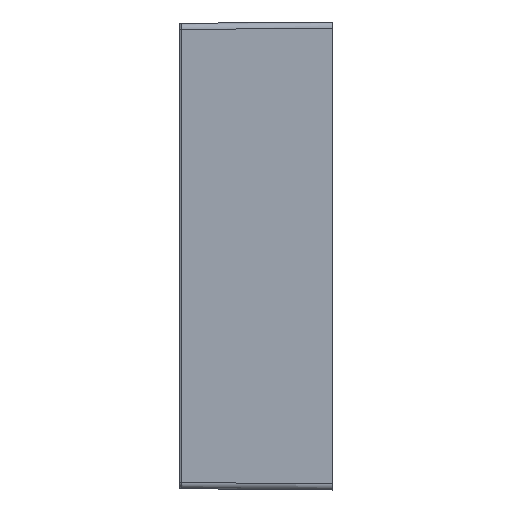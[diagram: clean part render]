
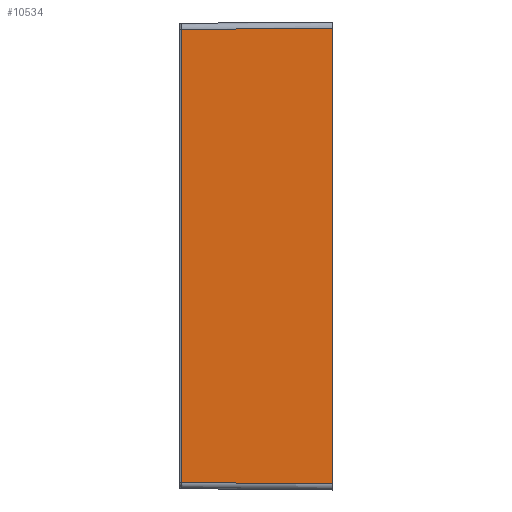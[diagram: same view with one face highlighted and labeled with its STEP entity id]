
A CAD part, left-side view. The second image highlights one B-rep face of the part: STEP entity #10534.
In plain terms, the highlighted planar face has unit normal (-1, 0.009, 0).
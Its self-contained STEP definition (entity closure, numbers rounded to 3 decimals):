
#319 = DIRECTION ( 'NONE',  ( -0.009, -1., 0. ) ) ;
#521 = CARTESIAN_POINT ( 'NONE',  ( -300., 0., 185. ) ) ;
#532 = EDGE_CURVE ( 'NONE', #9944, #15071, #8396, .T. ) ;
#686 = DIRECTION ( 'NONE',  ( -0.009, -1., -0.009 ) ) ;
#1970 = CARTESIAN_POINT ( 'NONE',  ( -300., 0., -185. ) ) ;
#2085 = ORIENTED_EDGE ( 'NONE', *, *, #532, .T. ) ;
#2242 = CARTESIAN_POINT ( 'NONE',  ( -299.986, 1.614, -184.986 ) ) ;
#3199 = AXIS2_PLACEMENT_3D ( 'NONE', #13831, #9594, #319 ) ;
#4819 = VERTEX_POINT ( 'NONE', #1970 ) ;
#5138 = FACE_OUTER_BOUND ( 'NONE', #5818, .T. ) ;
#5175 = EDGE_CURVE ( 'NONE', #4819, #8152, #12303, .T. ) ;
#5415 = LINE ( 'NONE', #2242, #17315 ) ;
#5818 = EDGE_LOOP ( 'NONE', ( #7038, #2085, #11837, #12822 ) ) ;
#7038 = ORIENTED_EDGE ( 'NONE', *, *, #16609, .T. ) ;
#8066 = VECTOR ( 'NONE', #19144, 1000. ) ;
#8152 = VERTEX_POINT ( 'NONE', #521 ) ;
#8280 = CARTESIAN_POINT ( 'NONE',  ( -299.986, 1.614, 184.986 ) ) ;
#8328 = CARTESIAN_POINT ( 'NONE',  ( -300., 0., 0. ) ) ;
#8396 = LINE ( 'NONE', #9059, #16658 ) ;
#9059 = CARTESIAN_POINT ( 'NONE',  ( -298.926, 123.017, -183.909 ) ) ;
#9148 = VECTOR ( 'NONE', #19191, 1000. ) ;
#9594 = DIRECTION ( 'NONE',  ( -1., 0.009, 0. ) ) ;
#9944 = VERTEX_POINT ( 'NONE', #18917 ) ;
#10534 = ADVANCED_FACE ( 'NONE', ( #5138 ), #15762, .T. ) ;
#11478 = DIRECTION ( 'NONE',  ( 0., 0., -1. ) ) ;
#11837 = ORIENTED_EDGE ( 'NONE', *, *, #13641, .T. ) ;
#12303 = LINE ( 'NONE', #8328, #9148 ) ;
#12822 = ORIENTED_EDGE ( 'NONE', *, *, #5175, .T. ) ;
#13515 = CARTESIAN_POINT ( 'NONE',  ( -298.926, 123.017, -183.927 ) ) ;
#13641 = EDGE_CURVE ( 'NONE', #15071, #4819, #5415, .T. ) ;
#13831 = CARTESIAN_POINT ( 'NONE',  ( -300., 0., 0. ) ) ;
#15071 = VERTEX_POINT ( 'NONE', #13515 ) ;
#15762 = PLANE ( 'NONE',  #3199 ) ;
#16609 = EDGE_CURVE ( 'NONE', #8152, #9944, #19988, .T. ) ;
#16658 = VECTOR ( 'NONE', #11478, 1000. ) ;
#17315 = VECTOR ( 'NONE', #686, 1000. ) ;
#18917 = CARTESIAN_POINT ( 'NONE',  ( -298.926, 123.017, 183.927 ) ) ;
#19144 = DIRECTION ( 'NONE',  ( 0.009, 1., -0.009 ) ) ;
#19191 = DIRECTION ( 'NONE',  ( 0., 0., 1. ) ) ;
#19988 = LINE ( 'NONE', #8280, #8066 ) ;
